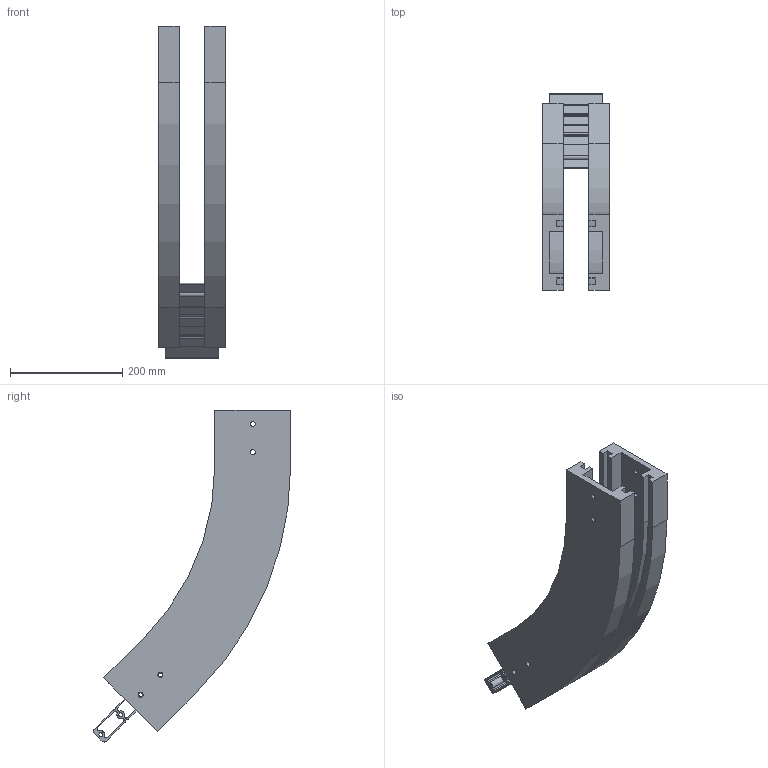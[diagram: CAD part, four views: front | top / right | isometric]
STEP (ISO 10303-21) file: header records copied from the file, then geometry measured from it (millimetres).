
FILE_DESCRIPTION (( 'STEP AP203' ), '1' );
FILE_NAME ('R3CV500-45.STEP', '2009-01-13T08:21:40', ( 'faber' ), ( '' ), 'SwSTEP 2.0', 'SolidWorks 2008', '' );
FILE_SCHEMA (( 'CONFIG_CONTROL_DESIGN' ));
Length unit declared in the file: millimetre
Products named in the file (1): R3CV500-45
Bounding box: 118 x 350.98 x 590.59 mm (x, y, z)
Surface area: 549602.1 mm2 (no closed solid volume)
Topology: 0 solids, 3 shells, 176 faces, 767 edges, 564 vertices
Faces by surface type: cylinder 93, plane 83
Entity records: 8038 total; most frequent: CARTESIAN_POINT 1508, DIRECTION 1397, ORIENTED_EDGE 1244, EDGE_CURVE 767, VERTEX_POINT 564, LINE 491, VECTOR 491, AXIS2_PLACEMENT_3D 453
